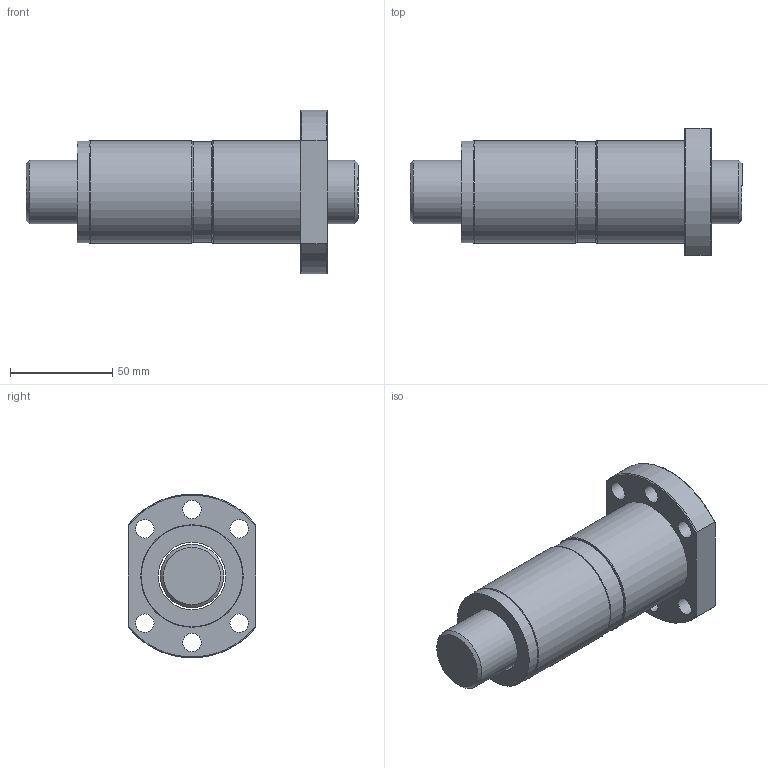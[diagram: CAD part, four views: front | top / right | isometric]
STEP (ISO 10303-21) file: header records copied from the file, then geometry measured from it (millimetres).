
FILE_DESCRIPTION(/* description */ (''),/* implementation_level */ '2;1');
FILE_NAME(/* name */ 'DFS3210',/* time_stamp */ '2007-10-26T13:44:00+08:00',/* author */ (''),/* organization */ (''),/* preprocessor_version */ 'ST-DEVELOPER v9',/* originating_system */ 'UGS - NX 3.0',/* authorisation */ '');
FILE_SCHEMA (('CONFIG_CONTROL_DESIGN'));
Length unit declared in the file: millimetre
Products named in the file (1): jaso15A4i32p
Bounding box: 162 x 62 x 79.74 mm (x, y, z)
Volume: 282981.8 mm3; surface area: 68769.5 mm2
Topology: 6 solids, 6 shells, 47 faces, 92 edges, 59 vertices
Faces by surface type: cylinder 20, plane 16, torus 9, cone 2
Full cylindrical faces by diameter (mm): 9 x6, 31 x1, 33 x5, 49 x1, 49.5 x3, 50 x2
Entity records: 1344 total; most frequent: CARTESIAN_POINT 318, DIRECTION 206, ORIENTED_EDGE 134, AXIS2_PLACEMENT_3D 99, EDGE_LOOP 96, FACE_BOUND 72, EDGE_CURVE 67, VERTEX_POINT 59
